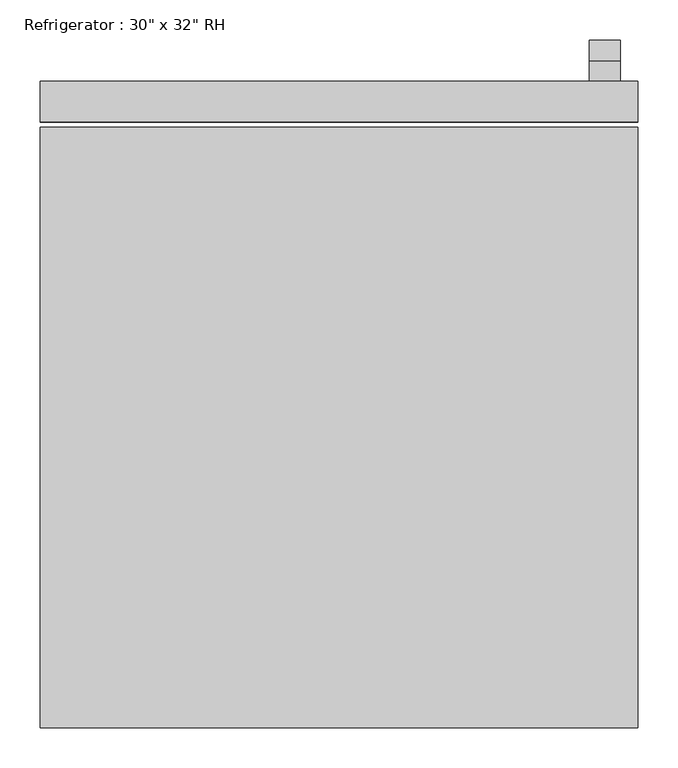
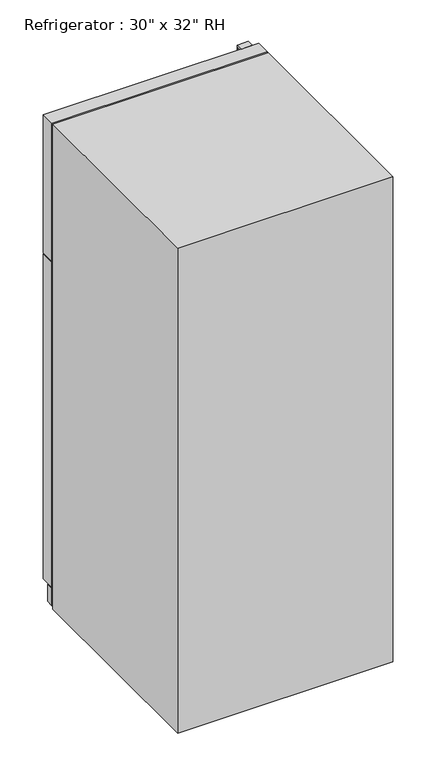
"""IFC4 building model written with IfcOpenShell, lengths in millimetres: proxy geometry."""

from ifc_helpers import new_model, si_unit, frame, origin, origin_with_axes, place, context, project, spatial, polyline, outline, extrude, source, transform, mapped, element, save


def proxy_43ed8386(model_context):
    return source(origin(), model_context, "Body", "SweptSolid", [
        extrude(outline(polyline([(417.9010285, 1262.0625), (417.9010285, 1268.4125), (468.7010285, 1268.4125), (468.7010285, 1065.2125), (440.7949512, 666.1370017), (417.9010285, 666.1370017), (417.9010285, 672.4715334), (434.8723987, 672.4715334), (462.3510285, 1065.4342469), (462.3510285, 1262.0625), (417.9010285, 1262.0625)])), frame((312.7375, 0.0, 0.0), z_axis=(1.0, 0.0, 0.0), x_axis=(0.0, 1.0, 0.0)), (0.0, 0.0, 1.0), 38.4332978),
        extrude(outline(polyline([(442.739413, 1778.0), (469.2793675, 1271.5875), (418.6780855, 1271.5875), (418.6780855, 1277.9375), (463.4007207, 1277.9375), (437.5263449, 1771.65), (418.6780855, 1771.65), (418.6780855, 1778.0), (442.739413, 1778.0)])), frame((312.7375, 0.0, 0.0), z_axis=(1.0, 0.0, 0.0), x_axis=(0.0, 1.0, 0.0)), (0.0, 0.0, 1.0), 38.4332978),
        extrude(outline(polyline([(373.0625, 367.1010285), (-373.0625, 367.1010285), (-373.0625, 392.5010285), (373.0625, 392.5010285), (373.0625, 367.1010285)])), frame((0.0, 0.0, 9.3816357), z_axis=(0.0, 0.0, 1.0), x_axis=(1.0, 0.0, 0.0)), (0.0, 0.0, 1.0), 63.5),
        extrude(outline(polyline([(373.0625, 367.1010285), (-373.0625, 367.1010285), (-373.0625, 417.9010285), (373.0625, 417.9010285), (373.0625, 367.1010285)])), frame((0.0, 0.0, 76.2), z_axis=(0.0, 0.0, 1.0), x_axis=(1.0, 0.0, 0.0)), (0.0, 0.0, 1.0), 1192.2125),
        extrude(outline(polyline([(373.0625, 367.1010285), (-373.0625, 367.1010285), (-373.0625, 417.9010285), (373.0625, 417.9010285), (373.0625, 367.1010285)])), frame((0.0, 0.0, 1271.5875), z_axis=(0.0, 0.0, 1.0), x_axis=(1.0, 0.0, 0.0)), (0.0, 0.0, 1.0), 506.4125),
        extrude(outline(polyline([(373.0625, -388.5489715), (-373.0625, -388.5489715), (-373.0625, 360.7510285), (373.0625, 360.7510285), (373.0625, -388.5489715)])), origin_with_axes(), (0.0, 0.0, 1.0), 1778.0),
    ])


if __name__ == "__main__":
    model = new_model("IFC4")
    model_context = context("Model", 3, world=origin())
    ifc_project = project(units=[si_unit("LENGTHUNIT", "METRE", prefix="MILLI")], contexts=[model_context])
    site = spatial("IfcSite", under=ifc_project)
    building = spatial("IfcBuilding", under=site)
    placement = place(None, origin())
    proxy_shape = proxy_43ed8386(model_context)
    element("IfcBuildingElementProxy", 1, Name="Refrigerator : 30\" x 32\" RH", ObjectType="Refrigerator : 30\" x 32\" RH", at=placement, inside=building, context=model_context, shape_type="MappedRepresentation", body=[
        mapped(proxy_shape, transform((0.0, 0.0, 0.0), x_axis=(1.0, 0.0, 0.0), y_axis=(0.0, 1.0, 0.0), z_axis=(0.0, 0.0, 1.0))),
    ])
    save(model, "model.ifc")
